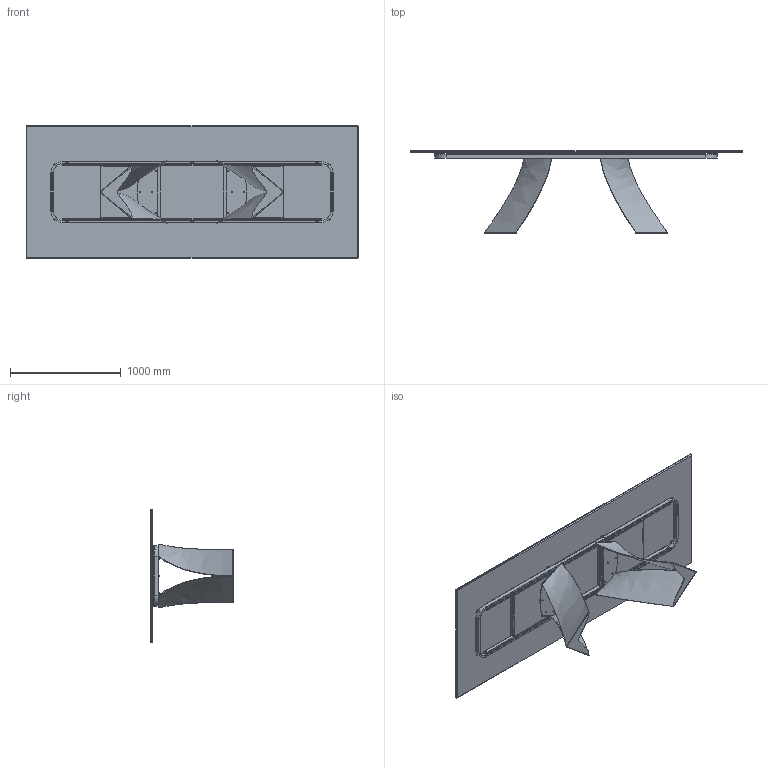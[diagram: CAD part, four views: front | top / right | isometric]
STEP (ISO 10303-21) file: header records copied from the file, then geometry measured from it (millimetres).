
FILE_DESCRIPTION (( 'STEP AP203' ), '1' );
FILE_NAME ('TW24C.STEP', '2024-08-07T12:44:18', ( '' ), ( '' ), 'SwSTEP 2.0', 'SolidWorks 2022', '' );
FILE_SCHEMA (( 'CONFIG_CONTROL_DESIGN' ));
Length unit declared in the file: millimetre
Products named in the file (10): M8xXXmm_M8x20mm; TTAV10-00-TELAIO X TAVOLO TWIST 300 320cm; TTAX03_02-00-VASSOIO IRRIGIDIMENTO TELAIO TWIST 300; 434070-00-PIEDINO TPV GOMMA NERO D. 30x8max18; TW24C; TWS000000BAS-00-TWIST BASE GREZZA; TTAX03_01-00-TELAIO UNIVERSALE X TWIST 300 320cm_Default<A macchina>; K2XCMXX-00-Piani Rettangolari in ceramica_3000 x 1200; rondella M8_8X16; PIEDINO PLASTICA PER TWIST
Assembly tree (43 placements, depth 3):
  TW24C
    K2XCMXX-00-Piani Rettangolari in ceramica_3000 x 1200
    TWS000000BAS-00-TWIST BASE GREZZA  x2
    TTAV10-00-TELAIO X TAVOLO TWIST 300 320cm
      TTAX03_01-00-TELAIO UNIVERSALE X TWIST 300 320cm_Default<A macchina>
      TTAX03_02-00-VASSOIO IRRIGIDIMENTO TELAIO TWIST 300  x2
    M8xXXmm_M8x20mm  x12
    rondella M8_8X16  x12
    434070-00-PIEDINO TPV GOMMA NERO D. 30x8max18  x8
    PIEDINO PLASTICA PER TWIST  x4
Bounding box: 3000 x 741.37 x 1200 mm (x, y, z)
Volume: 70916603.7 mm3; surface area: 20571330.3 mm2
Topology: 68 solids, 68 shells, 1284 faces, 2986 edges, 1830 vertices
Faces by surface type: plane 532, cylinder 346, torus 208, cone 132, bspline 66
Entity records: 23232 total; most frequent: CARTESIAN_POINT 9033, DIRECTION 2613, ORIENTED_EDGE 2498, EDGE_CURVE 1249, AXIS2_PLACEMENT_3D 976, VERTEX_POINT 811, LINE 661, VECTOR 661
